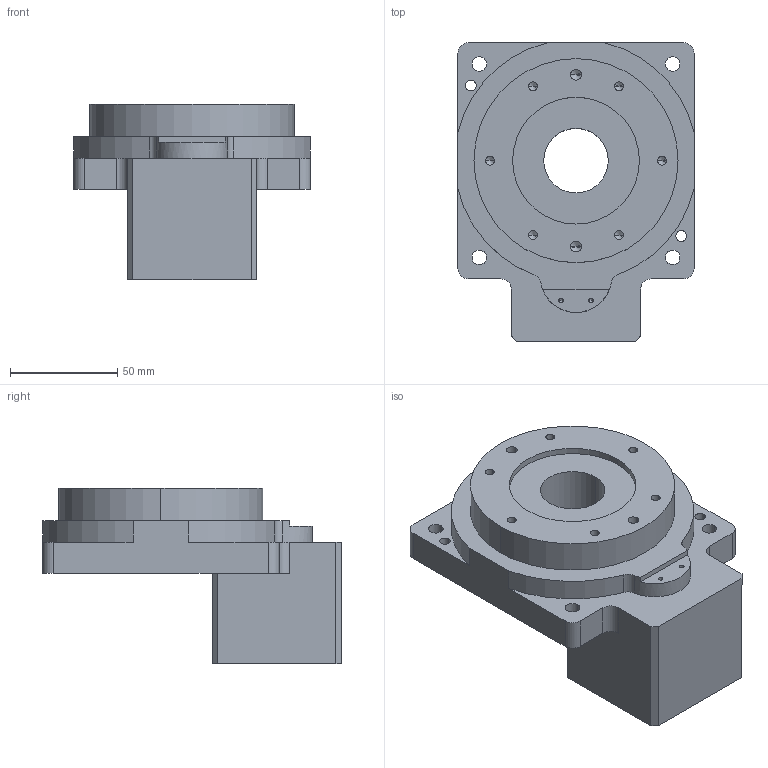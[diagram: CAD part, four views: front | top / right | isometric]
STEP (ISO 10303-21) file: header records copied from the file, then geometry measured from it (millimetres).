
FILE_DESCRIPTION (( 'STEP AP203' ), '1' );
FILE_NAME ('KTN110-5K-侜督-M5.step', '2022-06-21T08:04:20', ( '' ), ( '' ), 'SwSTEP 2.0', 'SolidWorks 2020', '' );
FILE_SCHEMA (( 'CONFIG_CONTROL_DESIGN' ));
Length unit declared in the file: millimetre
Products named in the file (1): KTN110-5K-侜督-M5
Bounding box: 110 x 139 x 81.5 mm (x, y, z)
Volume: 507256.2 mm3; surface area: 60304.2 mm2
Topology: 1 solids, 1 shells, 116 faces, 302 edges, 178 vertices
Faces by surface type: cylinder 63, cone 28, plane 25
Entity records: 3479 total; most frequent: DIRECTION 636, CARTESIAN_POINT 569, ORIENTED_EDGE 548, EDGE_CURVE 274, AXIS2_PLACEMENT_3D 245, VERTEX_POINT 178, EDGE_LOOP 148, VECTOR 146
